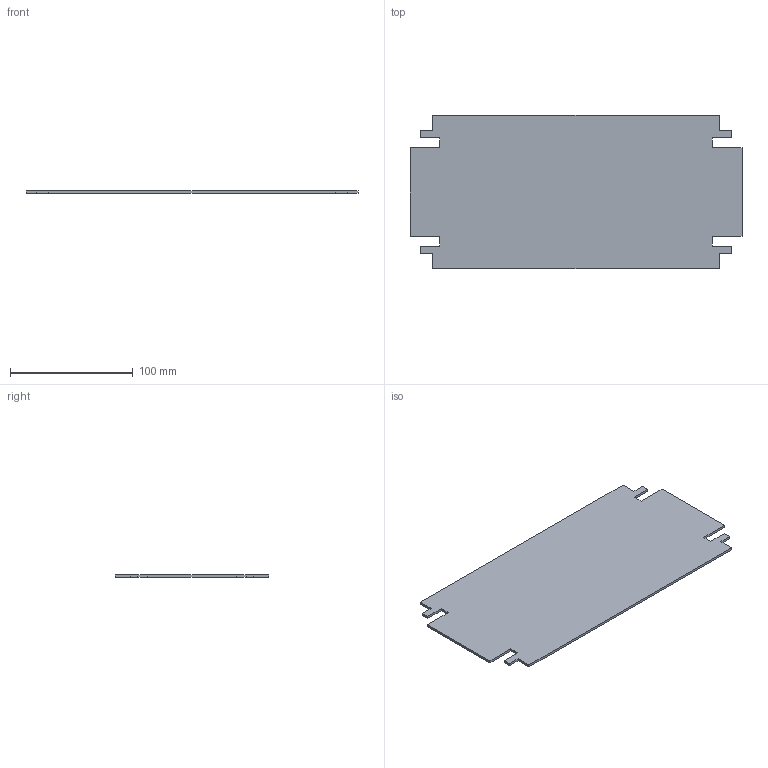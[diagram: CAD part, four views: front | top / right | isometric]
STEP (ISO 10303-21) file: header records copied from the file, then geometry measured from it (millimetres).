
FILE_DESCRIPTION( ( 'STEP AP214' ), '1' );
FILE_NAME( 'p:/temp/worker_125/temp/exporttempdir_972_424_ld6Ly/format_0/BMP1530(0).stp', '2021-03-15T14:03:22', ( 'License CC BY-ND 4.0' ), ( 'CADENAS' ), ' ', 'PARTsolutions', ' ' );
FILE_SCHEMA( ( 'AUTOMOTIVE_DESIGN { 1 0 10303 214 1 1 1 1 }' ) );
Length unit declared in the file: millimetre
Products named in the file (1): _BMP1530(0)
Bounding box: 270 x 125 x 2 mm (x, y, z)
Volume: 63720.8 mm3; surface area: 65550.4 mm2
Topology: 1 solids, 1 shells, 30 faces, 84 edges, 56 vertices
Faces by surface type: plane 30
Entity records: 1204 total; most frequent: CARTESIAN_POINT 171, ORIENTED_EDGE 168, DIRECTION 146, EDGE_CURVE 84, LINE 84, VECTOR 84, VERTEX_POINT 56, AXIS2_PLACEMENT_3D 31
